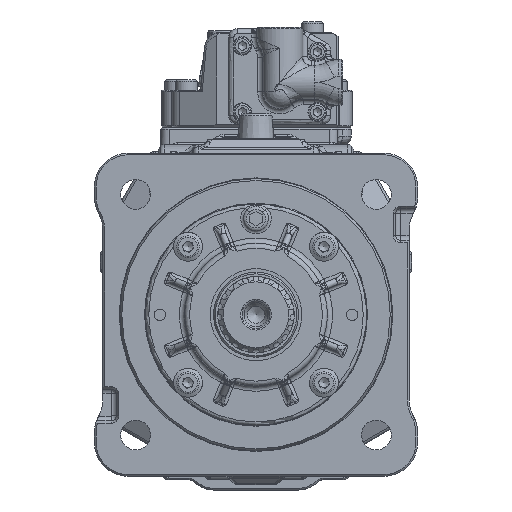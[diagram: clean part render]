
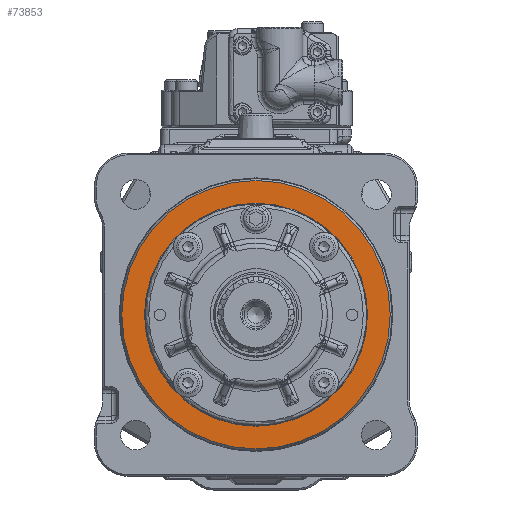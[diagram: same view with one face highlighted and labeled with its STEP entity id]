
A CAD part, front view. The second image highlights one B-rep face of the part: STEP entity #73853.
In plain terms, the highlighted planar face has unit normal (0, -1, 0).
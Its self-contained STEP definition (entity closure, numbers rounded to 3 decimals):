
#3250=FACE_BOUND('',#16101,.T.);
#11577=FACE_OUTER_BOUND('',#16100,.T.);
#16100=EDGE_LOOP('',(#64164));
#16101=EDGE_LOOP('',(#64165));
#19675=CIRCLE('',#80520,65.5);
#19681=CIRCLE('',#80538,78.845);
#35639=VERTEX_POINT('',#146908);
#35652=VERTEX_POINT('',#146949);
#45287=EDGE_CURVE('',#35639,#35639,#19675,.T.);
#45306=EDGE_CURVE('',#35652,#35652,#19681,.T.);
#64164=ORIENTED_EDGE('',*,*,#45306,.F.);
#64165=ORIENTED_EDGE('',*,*,#45287,.F.);
#70240=PLANE('',#80542);
#73853=ADVANCED_FACE('',(#11577,#3250),#70240,.F.);
#80520=AXIS2_PLACEMENT_3D('',#146910,#97708,#97709);
#80538=AXIS2_PLACEMENT_3D('',#146951,#97754,#97755);
#80542=AXIS2_PLACEMENT_3D('',#146958,#97763,#97764);
#97708=DIRECTION('center_axis',(0.,-1.,0.));
#97709=DIRECTION('ref_axis',(0.,0.,1.));
#97754=DIRECTION('center_axis',(0.,1.,0.));
#97755=DIRECTION('ref_axis',(0.,0.,-1.));
#97763=DIRECTION('center_axis',(0.,1.,0.));
#97764=DIRECTION('ref_axis',(0.,0.,1.));
#146908=CARTESIAN_POINT('',(0.,-179.,-65.5));
#146910=CARTESIAN_POINT('Origin',(0.,-179.,0.));
#146949=CARTESIAN_POINT('',(0.,-179.,78.845));
#146951=CARTESIAN_POINT('Origin',(0.,-179.,0.));
#146958=CARTESIAN_POINT('Origin',(0.,-179.,72.75));
